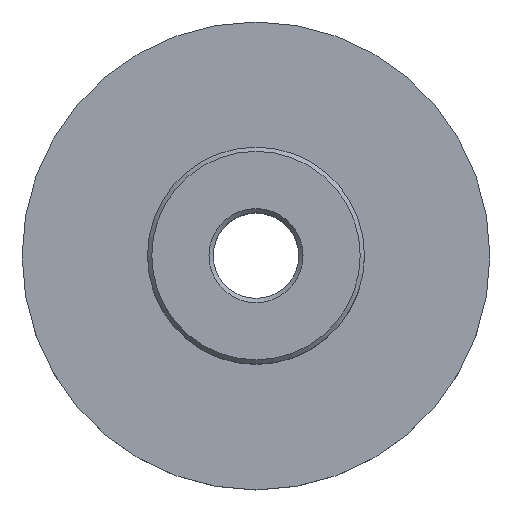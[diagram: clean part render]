
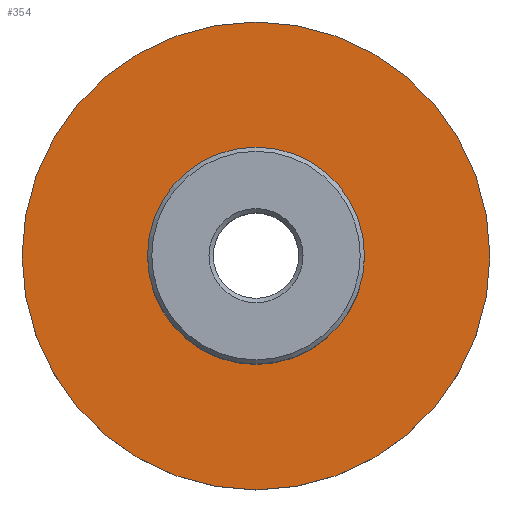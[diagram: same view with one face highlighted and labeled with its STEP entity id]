
A CAD part, top view. The second image highlights one B-rep face of the part: STEP entity #354.
In plain terms, the highlighted planar face has unit normal (0, 0, 1).
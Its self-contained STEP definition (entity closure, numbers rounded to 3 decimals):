
#180 = CYLINDRICAL_SURFACE('',#181,59.95);
#181 = AXIS2_PLACEMENT_3D('',#182,#183,#184);
#182 = CARTESIAN_POINT('',(0.,0.,0.));
#183 = DIRECTION('',(0.,0.,1.));
#184 = DIRECTION('',(1.,0.,-0.));
#251 = VERTEX_POINT('',#252);
#252 = CARTESIAN_POINT('',(59.95,0.,15.8));
#275 = EDGE_CURVE('',#251,#251,#276,.T.);
#276 = SURFACE_CURVE('',#277,(#282,#289),.PCURVE_S1.);
#277 = CIRCLE('',#278,59.95);
#278 = AXIS2_PLACEMENT_3D('',#279,#280,#281);
#279 = CARTESIAN_POINT('',(0.,0.,15.8));
#280 = DIRECTION('',(0.,0.,1.));
#281 = DIRECTION('',(1.,0.,-0.));
#282 = PCURVE('',#180,#283);
#283 = DEFINITIONAL_REPRESENTATION('',(#284),#288);
#284 = LINE('',#285,#286);
#285 = CARTESIAN_POINT('',(0.,15.8));
#286 = VECTOR('',#287,1.);
#287 = DIRECTION('',(1.,0.));
#288 = ( GEOMETRIC_REPRESENTATION_CONTEXT(2) 
PARAMETRIC_REPRESENTATION_CONTEXT() REPRESENTATION_CONTEXT('2D SPACE',''
  ) );
#289 = PCURVE('',#290,#295);
#290 = PLANE('',#291);
#291 = AXIS2_PLACEMENT_3D('',#292,#293,#294);
#292 = CARTESIAN_POINT('',(0.,0.,15.8));
#293 = DIRECTION('',(0.,0.,1.));
#294 = DIRECTION('',(1.,0.,-0.));
#295 = DEFINITIONAL_REPRESENTATION('',(#296),#300);
#296 = CIRCLE('',#297,59.95);
#297 = AXIS2_PLACEMENT_2D('',#298,#299);
#298 = CARTESIAN_POINT('',(0.,0.));
#299 = DIRECTION('',(1.,0.));
#300 = ( GEOMETRIC_REPRESENTATION_CONTEXT(2) 
PARAMETRIC_REPRESENTATION_CONTEXT() REPRESENTATION_CONTEXT('2D SPACE',''
  ) );
#354 = ADVANCED_FACE('',(#355,#358),#290,.T.);
#355 = FACE_BOUND('',#356,.T.);
#356 = EDGE_LOOP('',(#357));
#357 = ORIENTED_EDGE('',*,*,#275,.T.);
#358 = FACE_BOUND('',#359,.T.);
#359 = EDGE_LOOP('',(#360));
#360 = ORIENTED_EDGE('',*,*,#361,.F.);
#361 = EDGE_CURVE('',#362,#362,#364,.T.);
#362 = VERTEX_POINT('',#363);
#363 = CARTESIAN_POINT('',(27.81,0.,15.8));
#364 = SURFACE_CURVE('',#365,(#370,#377),.PCURVE_S1.);
#365 = CIRCLE('',#366,27.81);
#366 = AXIS2_PLACEMENT_3D('',#367,#368,#369);
#367 = CARTESIAN_POINT('',(0.,0.,15.8));
#368 = DIRECTION('',(0.,0.,1.));
#369 = DIRECTION('',(1.,0.,-0.));
#370 = PCURVE('',#290,#371);
#371 = DEFINITIONAL_REPRESENTATION('',(#372),#376);
#372 = CIRCLE('',#373,27.81);
#373 = AXIS2_PLACEMENT_2D('',#374,#375);
#374 = CARTESIAN_POINT('',(0.,0.));
#375 = DIRECTION('',(1.,0.));
#376 = ( GEOMETRIC_REPRESENTATION_CONTEXT(2) 
PARAMETRIC_REPRESENTATION_CONTEXT() REPRESENTATION_CONTEXT('2D SPACE',''
  ) );
#377 = PCURVE('',#378,#383);
#378 = CYLINDRICAL_SURFACE('',#379,27.81);
#379 = AXIS2_PLACEMENT_3D('',#380,#381,#382);
#380 = CARTESIAN_POINT('',(0.,0.,15.8));
#381 = DIRECTION('',(0.,0.,1.));
#382 = DIRECTION('',(1.,0.,-0.));
#383 = DEFINITIONAL_REPRESENTATION('',(#384),#388);
#384 = LINE('',#385,#386);
#385 = CARTESIAN_POINT('',(0.,0.));
#386 = VECTOR('',#387,1.);
#387 = DIRECTION('',(1.,0.));
#388 = ( GEOMETRIC_REPRESENTATION_CONTEXT(2) 
PARAMETRIC_REPRESENTATION_CONTEXT() REPRESENTATION_CONTEXT('2D SPACE',''
  ) );
